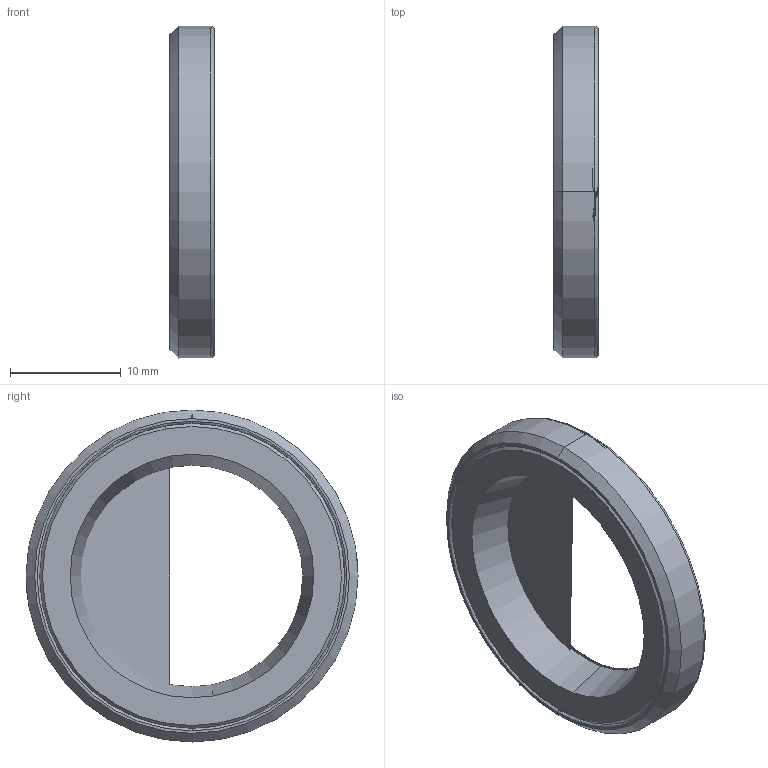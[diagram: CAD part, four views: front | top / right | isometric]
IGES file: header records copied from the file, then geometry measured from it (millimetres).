
Start section: 3D InterOp IGES (Version 21 0 1), Spatial Corp. Copyright (c) 1999-2007.
Global section: file name: DBX-20.igs; native system: Spatial Corp.; preprocessor: 3D InterOp GENERIC/IGES 3.0; author: Noname; organization: Noname; date: 20220216.143419; units: millimetre
Bounding box: 4 x 30 x 30 mm (x, y, z)
Surface area: 3492.8 mm2 (no closed solid volume)
Topology: 0 solids, 0 shells, 43 faces, 188 edges, 180 vertices
Faces by surface type: revolution 36, extrusion 7
